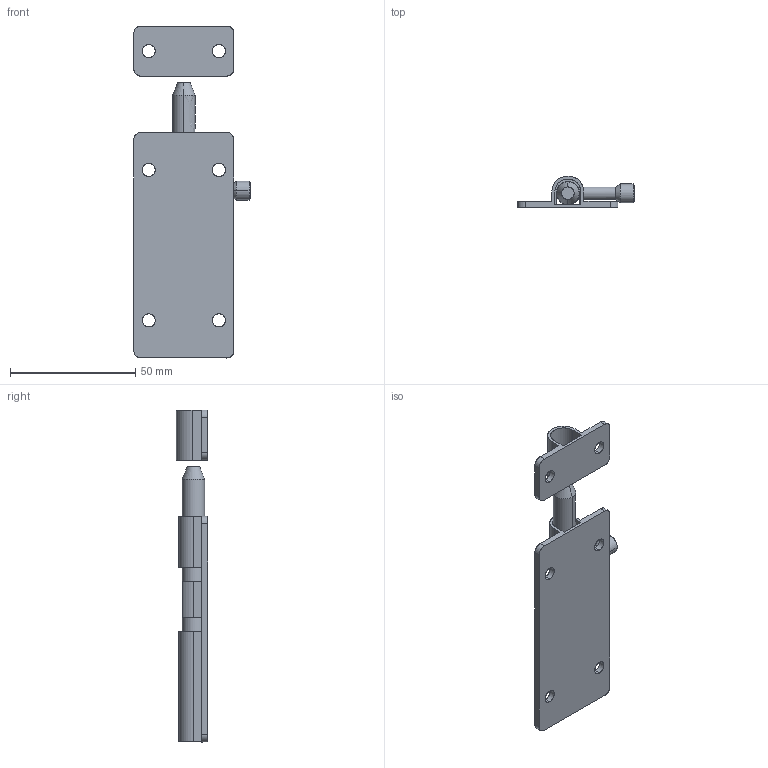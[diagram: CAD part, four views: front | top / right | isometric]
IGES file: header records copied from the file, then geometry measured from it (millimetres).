
Start section: SolidWorks IGES FILE using analytic representation for surfaces
Global section: file name: \\Ls-wvld1d\share\シブタニ\3D設計\ラッチ錠・キャッチ\DL-153S-1\DL-153S-1.IGS; native system: SolidWorks 2003 by SolidWorks Corporation; preprocessor: Version 5.3; author: user; date: 130707.112930; units: millimetre
Bounding box: 46.5 x 12.5 x 132.43 mm (x, y, z)
Surface area: 16838.1 mm2 (no closed solid volume)
Topology: 0 solids, 0 shells, 85 faces, 1318 edges, 1318 vertices
Faces by surface type: revolution 45, bspline 40
